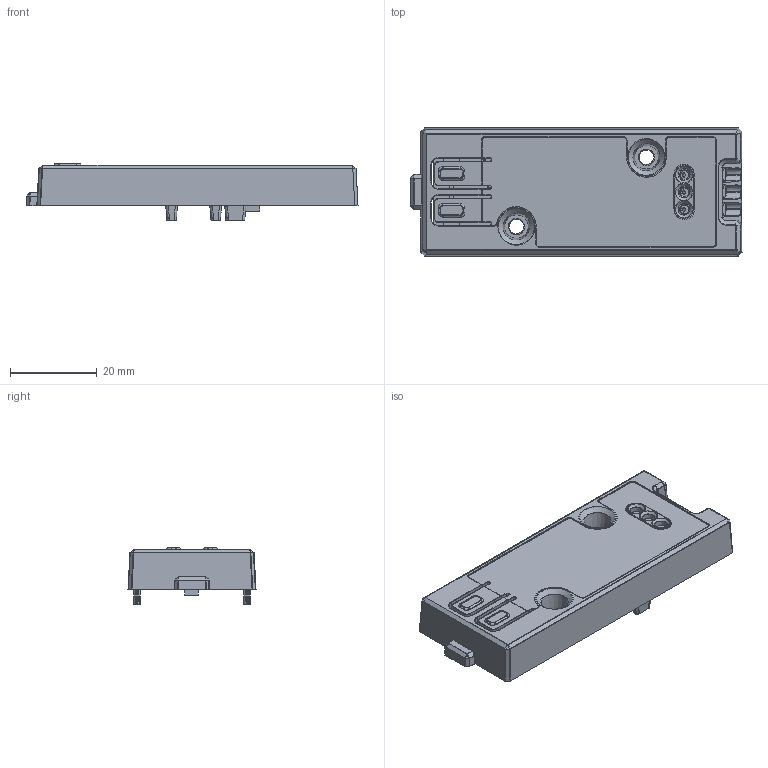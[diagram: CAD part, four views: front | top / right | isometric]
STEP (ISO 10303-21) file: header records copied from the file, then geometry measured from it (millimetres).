
FILE_DESCRIPTION(('Open CASCADE Model'),'2;1');
FILE_NAME('Open CASCADE Shape Model','2017-05-30T20:09:13',('Author'),( 'Open CASCADE'),'Open CASCADE STEP processor 6.8','Open CASCADE 6.8' ,'Unknown');
FILE_SCHEMA(('AUTOMOTIVE_DESIGN { 1 0 10303 214 1 1 1 1 }'));
Length unit declared in the file: millimetre
Products named in the file (186): PCB; Board; C30; 1171551376; Extruded; 1171551512; R33; 1171549880; 1171550016; U5; User_Library-so8-4; C11; 1171551104; 1171551240; U4; 1171550560; D1; 1171552464; R28; RES_0402_(1005M)_.51; C27; 0603; R30; R27; R26; R10; R9; 1171552600; 1171552736; P2; CLP-105-02-L-D; _CLP-105-2-L-D_terminal; _C-106-22-105_Pin; C22; 1171552328; 1171552192; C19; R6; R29; R25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
Assembly tree (316 placements, depth 4):
  PCB
    Board
    C30
      1171551376
        Extruded
      1171551512  x2
        Extruded
    R33
      1171549880  x2
        Extruded
      1171550016
        Extruded
    U5
      User_Library-so8-4
    C11
      1171551104
        Extruded
      1171551240  x2
        Extruded
    U4
      1171550560
        Extruded
    D1
      1171552464
        Extruded
    R28
      RES_0402_(1005M)_.51
    C27
      0603
    R30
      RES_0402_(1005M)_.51
    R27
      RES_0402_(1005M)_.51
    R26
      RES_0402_(1005M)_.51
    R10
      RES_0402_(1005M)_.51
    R9
      1171552600  x2
        Extruded
      1171552736
        Extruded
    P2
      CLP-105-02-L-D
        _CLP-105-2-L-D_terminal
        _C-106-22-105_Pin  x2
    C22
      1171552328  x2
        Extruded
      1171552192
        Extruded
    C19
      1171552328  x2
        Extruded
      1171552192
        Extruded
    R6
      RES_0402_(1005M)_.51
    R29
      RES_0402_(1005M)_.51
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Bounding box: 76.62 x 29.56 x 13.15 mm (x, y, z)
Volume: 15695.1 mm3; surface area: 23057.7 mm2
Topology: 263 solids, 274 shells, 8243 faces, 21164 edges, 13489 vertices
Faces by surface type: plane 4337, bspline 2405, cylinder 1328, cone 114, torus 38, sphere 21
Full cylindrical faces by diameter (mm): 0.508 x2, 0.61 x10, 0.686 x2, 3 x2, 3.5 x2, 4.3 x2
Entity records: 176949 total; most frequent: CARTESIAN_POINT 58918, ORIENTED_EDGE 21738, DIRECTION 17000, EDGE_CURVE 10871, LINE 7390, VECTOR 7390, VERTEX_POINT 7073, AXIS2_PLACEMENT_3D 4805
